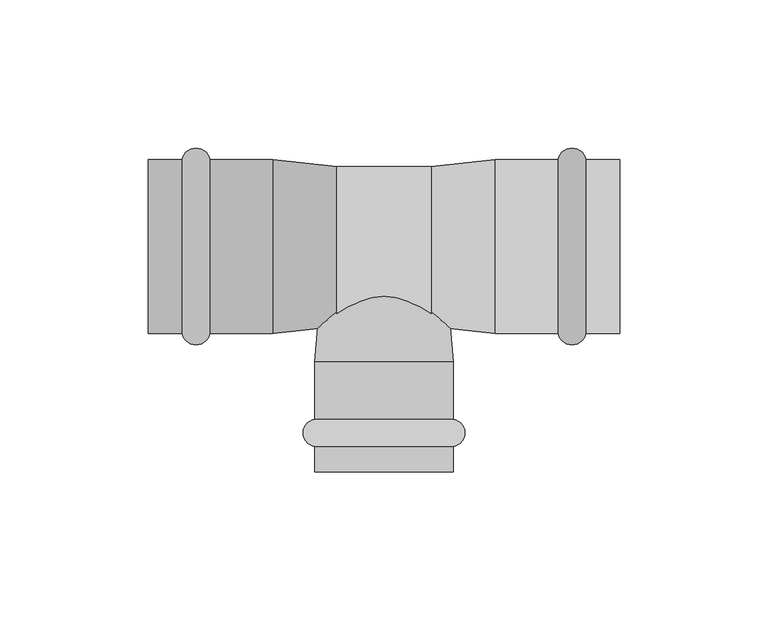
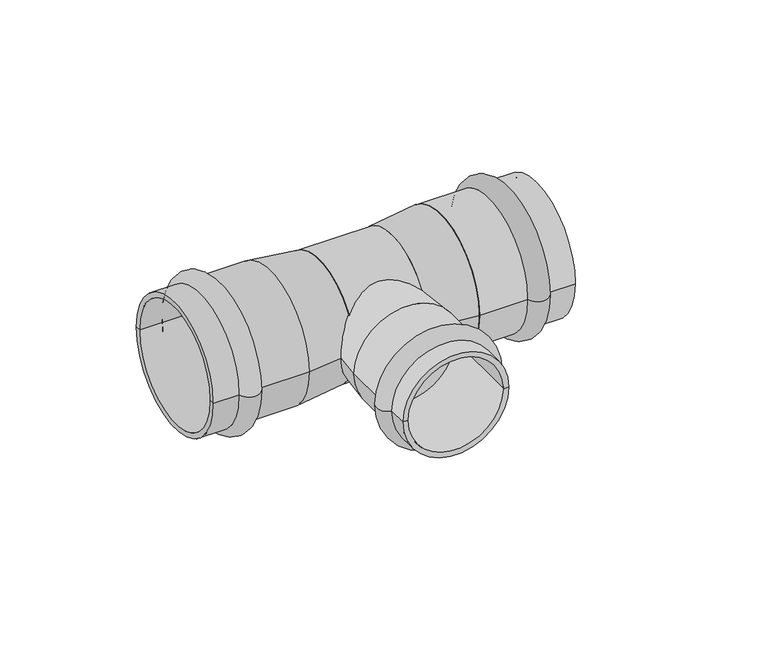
"""IFC4 building model written with IfcOpenShell, lengths in millimetres: pipe fitting geometry, VALTEC_VTi.931.I_Тройник_Ннержавеющая сталь : VTi.931.I."""

from ifc_helpers import new_model, si_unit, point, frame, origin, origin_2d, place, context, project, spatial, polyline, circle_curve, ellipse_curve, trimmed, segment, composite_curve, outline, extrude, source, transform, mapped, element, save
from ifc_brep_helpers import plane_surface, cylinder_surface, revolved_surface, advanced_brep


def pipe_fitting_036f088e(model_context):
    return source(origin(), model_context, "Body", "SolidModel", [
        advanced_brep(
        [(23.35, -67.4464272, 0.0), (-23.35, -67.4464272, 0.0), (-23.35, -58.3535728, 0.0), (23.35, -58.3535728, 0.0), (23.35, -76.0, 0.0), (-23.35, -76.0, 0.0), (21.0, -76.0, 0.0), (-21.0, -76.0, 0.0), (21.0, -39.0, 0.0), (-21.0, -39.0, 0.0), (23.35, -39.0, 0.0), (-23.35, -39.0, 0.0)],
        [
            (0, 1, circle_curve(frame((0.0, -67.4464272, 0.0), z_axis=(0.0, 1.0, 0.0), x_axis=(-1.0, 0.0, 0.0)), 23.35)),
            (1, 2, circle_curve(frame((-22.65, -62.9, 0.0), z_axis=(0.0, 0.0, -1.0), x_axis=(0.0, 1.0, 0.0)), 4.6)),
            (2, 3, circle_curve(frame((0.0, -58.3535728, 0.0), z_axis=(0.0, -1.0, 0.0), x_axis=(-1.0, 0.0, 0.0)), 23.35)),
            (3, 0, circle_curve(frame((22.65, -62.9, 0.0), z_axis=(0.0, 0.0, -1.0), x_axis=(0.0, 1.0, 0.0)), 4.6)),
            (1, 0, circle_curve(frame((0.0, -67.4464272, 0.0), z_axis=(0.0, 1.0, 0.0), x_axis=(-1.0, 0.0, 0.0)), 23.35)),
            (3, 2, circle_curve(frame((0.0, -58.3535728, 0.0), z_axis=(0.0, -1.0, 0.0), x_axis=(-1.0, 0.0, 0.0)), 23.35)),
            (4, 5, circle_curve(frame((0.0, -76.0, 0.0), z_axis=(0.0, 1.0, 0.0), x_axis=(-1.0, 0.0, 0.0)), 23.35)),
            (5, 1),
            (0, 4),
            (5, 4, circle_curve(frame((0.0, -76.0, 0.0), z_axis=(0.0, 1.0, 0.0), x_axis=(-1.0, 0.0, 0.0)), 23.35)),
            (6, 7, circle_curve(frame((0.0, -76.0, 0.0), z_axis=(0.0, 1.0, 0.0), x_axis=(-1.0, 0.0, 0.0)), 21.0)),
            (7, 5),
            (4, 6),
            (7, 6, circle_curve(frame((0.0, -76.0, 0.0), z_axis=(0.0, 1.0, 0.0), x_axis=(-1.0, 0.0, 0.0)), 21.0)),
            (8, 9, circle_curve(frame((0.0, -39.0, 0.0), z_axis=(0.0, 1.0, 0.0), x_axis=(-1.0, 0.0, 0.0)), 21.0)),
            (9, 7),
            (6, 8),
            (9, 8, circle_curve(frame((0.0, -39.0, 0.0), z_axis=(0.0, 1.0, 0.0), x_axis=(-1.0, 0.0, 0.0)), 21.0)),
            (10, 11, circle_curve(frame((0.0, -39.0, 0.0), z_axis=(0.0, 1.0, 0.0), x_axis=(-1.0, 0.0, 0.0)), 23.35)),
            (11, 9),
            (8, 10),
            (11, 10, circle_curve(frame((0.0, -39.0, 0.0), z_axis=(0.0, 1.0, 0.0), x_axis=(-1.0, 0.0, 0.0)), 23.35)),
            (2, 11),
            (10, 3),
        ],
        [
            revolved_surface(trimmed(ellipse_curve(frame((-22.65, -62.9, 0.0), z_axis=(0.0, 0.0, 1.0), x_axis=(0.0, 1.0, 0.0)), 4.6, 4.6), [point((-23.35, -58.3535728, 0.0))], [point((-23.35, -67.4464272, 0.0))], True, "CARTESIAN"), (0.0, -79.5364426, 0.0), (0.0, -1.0, 0.0)),
            cylinder_surface(frame((0.0, -79.5364426, 0.0), z_axis=(0.0, -1.0, 0.0), x_axis=(-1.0, 0.0, 0.0)), 23.35),
            plane_surface(frame((0.0, -76.0, 0.0), z_axis=(0.0, -1.0, 0.0), x_axis=(-1.0, 0.0, 0.0))),
            revolved_surface(polyline([(-21.0, -76.0, 0.0), (-21.0, -39.0, 0.0)]), (0.0, -79.5364426, 0.0), (0.0, -1.0, 0.0)),
            plane_surface(frame((0.0, -39.0, 0.0), z_axis=(0.0, 1.0, 0.0), x_axis=(-1.0, 0.0, 0.0))),
        ],
        [
            (0, [[1, 2, 3, 4]]),
            (0, [[5, -4, 6, -2]]),
            (1, [[7, 8, -1, 9]]),
            (1, [[10, -9, -5, -8]]),
            (2, [[11, 12, -7, 13]]),
            (2, [[14, -13, -10, -12]]),
            (3, [[15, 16, -11, 17]]),
            (3, [[18, -17, -14, -16]]),
            (4, [[19, 20, -15, 21]]),
            (4, [[22, -21, -18, -20]]),
            (1, [[-3, 23, -19, 24]]),
            (1, [[-6, -24, -22, -23]]),
        ],
    ),
        advanced_brep(
        [(68.1148701, 29.3, 0.0), (68.1148701, -29.3, 0.0), (58.6851299, -29.3, 0.0), (58.6851299, 29.3, 0.0), (79.5, 29.3, 0.0), (79.5, -29.3, 0.0), (79.5, 27.0, 0.0), (79.5, -27.0, 0.0), (37.5, 27.0, 0.0), (37.5, -27.0, 0.0), (37.5, 29.3, 0.0), (37.5, -29.3, 0.0)],
        [
            (0, 1, circle_curve(frame((68.1148701, 0.0, 0.0), z_axis=(-1.0, 0.0, 0.0), x_axis=(0.0, -1.0, 0.0)), 29.3)),
            (1, 2, circle_curve(frame((63.4, -28.4, 0.0), z_axis=(0.0, 0.0, -1.0), x_axis=(-1.0, 0.0, 0.0)), 4.8)),
            (2, 3, circle_curve(frame((58.6851299, 0.0, 0.0), z_axis=(1.0, 0.0, 0.0), x_axis=(0.0, -1.0, 0.0)), 29.3)),
            (3, 0, circle_curve(frame((63.4, 28.4, 0.0), z_axis=(0.0, 0.0, -1.0), x_axis=(-1.0, 0.0, 0.0)), 4.8)),
            (1, 0, circle_curve(frame((68.1148701, 0.0, 0.0), z_axis=(-1.0, 0.0, 0.0), x_axis=(0.0, -1.0, 0.0)), 29.3)),
            (3, 2, circle_curve(frame((58.6851299, 0.0, 0.0), z_axis=(1.0, 0.0, 0.0), x_axis=(0.0, -1.0, 0.0)), 29.3)),
            (4, 5, circle_curve(frame((79.5, 0.0, 0.0), z_axis=(-1.0, 0.0, 0.0), x_axis=(0.0, -1.0, 0.0)), 29.3)),
            (5, 1),
            (0, 4),
            (5, 4, circle_curve(frame((79.5, 0.0, 0.0), z_axis=(-1.0, 0.0, 0.0), x_axis=(0.0, -1.0, 0.0)), 29.3)),
            (6, 7, circle_curve(frame((79.5, 0.0, 0.0), z_axis=(-1.0, 0.0, 0.0), x_axis=(0.0, -1.0, 0.0)), 27.0)),
            (7, 5),
            (4, 6),
            (7, 6, circle_curve(frame((79.5, 0.0, 0.0), z_axis=(-1.0, 0.0, 0.0), x_axis=(0.0, -1.0, 0.0)), 27.0)),
            (8, 9, circle_curve(frame((37.5, 0.0, 0.0), z_axis=(-1.0, 0.0, 0.0), x_axis=(0.0, -1.0, 0.0)), 27.0)),
            (9, 7),
            (6, 8),
            (9, 8, circle_curve(frame((37.5, 0.0, 0.0), z_axis=(-1.0, 0.0, 0.0), x_axis=(0.0, -1.0, 0.0)), 27.0)),
            (10, 11, circle_curve(frame((37.5, 0.0, 0.0), z_axis=(-1.0, 0.0, 0.0), x_axis=(0.0, -1.0, 0.0)), 29.3)),
            (11, 9),
            (8, 10),
            (11, 10, circle_curve(frame((37.5, 0.0, 0.0), z_axis=(-1.0, 0.0, 0.0), x_axis=(0.0, -1.0, 0.0)), 29.3)),
            (2, 11),
            (10, 3),
        ],
        [
            revolved_surface(trimmed(ellipse_curve(frame((63.4, -28.4, 0.0), z_axis=(0.0, 0.0, 1.0), x_axis=(-1.0, 0.0, 0.0)), 4.8, 4.8), [point((58.6851299, -29.3, 0.0))], [point((68.1148701, -29.3, 0.0))], True, "CARTESIAN"), (83.0364426, 0.0, 0.0), (1.0, 0.0, 0.0)),
            cylinder_surface(frame((83.0364426, 0.0, 0.0), z_axis=(1.0, 0.0, 0.0), x_axis=(0.0, -1.0, 0.0)), 29.3),
            plane_surface(frame((79.5, 0.0, 0.0), z_axis=(1.0, 0.0, 0.0), x_axis=(0.0, -1.0, 0.0))),
            revolved_surface(polyline([(79.5, -27.0, 0.0), (37.5, -27.0, 0.0)]), (83.0364426, 0.0, 0.0), (1.0, 0.0, 0.0)),
            plane_surface(frame((37.5, 0.0, 0.0), z_axis=(-1.0, 0.0, 0.0), x_axis=(0.0, -1.0, 0.0))),
        ],
        [
            (0, [[1, 2, 3, 4]]),
            (0, [[5, -4, 6, -2]]),
            (1, [[7, 8, -1, 9]]),
            (1, [[10, -9, -5, -8]]),
            (2, [[11, 12, -7, 13]]),
            (2, [[14, -13, -10, -12]]),
            (3, [[15, 16, -11, 17]]),
            (3, [[18, -17, -14, -16]]),
            (4, [[19, 20, -15, 21]]),
            (4, [[22, -21, -18, -20]]),
            (1, [[-3, 23, -19, 24]]),
            (1, [[-6, -24, -22, -23]]),
        ],
    ),
        advanced_brep(
        [(-68.1148701, -29.3, 0.0), (-68.1148701, 29.3, 0.0), (-58.6851299, 29.3, 0.0), (-58.6851299, -29.3, 0.0), (-79.5, -29.3, 0.0), (-79.5, 29.3, 0.0), (-79.5, -27.0, 0.0), (-79.5, 27.0, 0.0), (-37.5, -27.0, 0.0), (-37.5, 27.0, 0.0), (-37.5, -29.3, 0.0), (-37.5, 29.3, 0.0)],
        [
            (0, 1, circle_curve(frame((-68.1148701, 0.0, 0.0), z_axis=(1.0, 0.0, 0.0), x_axis=(0.0, 1.0, 0.0)), 29.3)),
            (1, 2, circle_curve(frame((-63.4, 28.4, 0.0), z_axis=(0.0, 0.0, -1.0), x_axis=(1.0, 0.0, 0.0)), 4.8)),
            (2, 3, circle_curve(frame((-58.6851299, 0.0, 0.0), z_axis=(-1.0, 0.0, 0.0), x_axis=(0.0, 1.0, 0.0)), 29.3)),
            (3, 0, circle_curve(frame((-63.4, -28.4, 0.0), z_axis=(0.0, 0.0, -1.0), x_axis=(1.0, 0.0, 0.0)), 4.8)),
            (1, 0, circle_curve(frame((-68.1148701, 0.0, 0.0), z_axis=(1.0, 0.0, 0.0), x_axis=(0.0, 1.0, 0.0)), 29.3)),
            (3, 2, circle_curve(frame((-58.6851299, 0.0, 0.0), z_axis=(-1.0, 0.0, 0.0), x_axis=(0.0, 1.0, 0.0)), 29.3)),
            (4, 5, circle_curve(frame((-79.5, 0.0, 0.0), z_axis=(1.0, 0.0, 0.0), x_axis=(0.0, 1.0, 0.0)), 29.3)),
            (5, 1),
            (0, 4),
            (5, 4, circle_curve(frame((-79.5, 0.0, 0.0), z_axis=(1.0, 0.0, 0.0), x_axis=(0.0, 1.0, 0.0)), 29.3)),
            (6, 7, circle_curve(frame((-79.5, 0.0, 0.0), z_axis=(1.0, 0.0, 0.0), x_axis=(0.0, 1.0, 0.0)), 27.0)),
            (7, 5),
            (4, 6),
            (7, 6, circle_curve(frame((-79.5, 0.0, 0.0), z_axis=(1.0, 0.0, 0.0), x_axis=(0.0, 1.0, 0.0)), 27.0)),
            (8, 9, circle_curve(frame((-37.5, 0.0, 0.0), z_axis=(1.0, 0.0, 0.0), x_axis=(0.0, 1.0, 0.0)), 27.0)),
            (9, 7),
            (6, 8),
            (9, 8, circle_curve(frame((-37.5, 0.0, 0.0), z_axis=(1.0, 0.0, 0.0), x_axis=(0.0, 1.0, 0.0)), 27.0)),
            (10, 11, circle_curve(frame((-37.5, 0.0, 0.0), z_axis=(1.0, 0.0, 0.0), x_axis=(0.0, 1.0, 0.0)), 29.3)),
            (11, 9),
            (8, 10),
            (11, 10, circle_curve(frame((-37.5, 0.0, 0.0), z_axis=(1.0, 0.0, 0.0), x_axis=(0.0, 1.0, 0.0)), 29.3)),
            (2, 11),
            (10, 3),
        ],
        [
            revolved_surface(trimmed(ellipse_curve(frame((-63.4, 28.4, 0.0), z_axis=(0.0, 0.0, 1.0), x_axis=(1.0, 0.0, 0.0)), 4.8, 4.8), [point((-58.6851299, 29.3, 0.0))], [point((-68.1148701, 29.3, 0.0))], True, "CARTESIAN"), (-83.0364426, 0.0, 0.0), (-1.0, 0.0, 0.0)),
            cylinder_surface(frame((-83.0364426, 0.0, 0.0), z_axis=(-1.0, 0.0, 0.0), x_axis=(0.0, 1.0, 0.0)), 29.3),
            plane_surface(frame((-79.5, 0.0, 0.0), z_axis=(-1.0, 0.0, 0.0), x_axis=(0.0, 1.0, 0.0))),
            revolved_surface(polyline([(-79.5, 27.0, 0.0), (-37.5, 27.0, 0.0)]), (-83.0364426, 0.0, 0.0), (-1.0, 0.0, 0.0)),
            plane_surface(frame((-37.5, 0.0, 0.0), z_axis=(1.0, 0.0, 0.0), x_axis=(0.0, 1.0, 0.0))),
        ],
        [
            (0, [[1, 2, 3, 4]]),
            (0, [[5, -4, 6, -2]]),
            (1, [[7, 8, -1, 9]]),
            (1, [[10, -9, -5, -8]]),
            (2, [[11, 12, -7, 13]]),
            (2, [[14, -13, -10, -12]]),
            (3, [[15, 16, -11, 17]]),
            (3, [[18, -17, -14, -16]]),
            (4, [[19, 20, -15, 21]]),
            (4, [[22, -21, -18, -20]]),
            (1, [[-3, 23, -19, 24]]),
            (1, [[-6, -24, -22, -23]]),
        ],
    ),
        extrude(outline(composite_curve([segment(trimmed(circle_curve(origin_2d(), 27.0), [point((-27.0, 0.0))], [point((27.0, 0.0))], False, "CARTESIAN"), True, "CONTINUOUS"), segment(trimmed(circle_curve(origin_2d(), 27.0), [point((27.0, 0.0))], [point((-27.0, 0.0))], False, "CARTESIAN"), True, "CONTINUOUS")], self_intersect=False)), frame((-16.0, 0.0, 0.0), z_axis=(1.0, 0.0, 0.0), x_axis=(0.0, 1.0, 0.0)), (0.0, 0.0, 1.0), 32.0),
        advanced_brep(
        [(-23.35, -39.0, 0.0), (23.35, -39.0, 0.0), (-21.0, -11.3209826, 0.0), (21.0, -11.3209826, 0.0)],
        [
            (0, 1, circle_curve(frame((0.0, -39.0, 0.0), z_axis=(0.0, -1.0, 0.0), x_axis=(-1.0, 0.0, 0.0)), 23.35)),
            (1, 0, circle_curve(frame((0.0, -39.0, 0.0), z_axis=(0.0, -1.0, 0.0), x_axis=(1.0, 0.0, 0.0)), 23.35)),
            (2, 3, circle_curve(frame((0.0, -11.3209826, 0.0), z_axis=(0.0, 1.0, 0.0), x_axis=(1.0, 0.0, 0.0)), 21.0)),
            (3, 2, circle_curve(frame((0.0, -11.3209826, 0.0), z_axis=(0.0, 1.0, 0.0), x_axis=(-1.0, 0.0, 0.0)), 21.0)),
            (3, 1),
            (0, 2),
        ],
        [
            plane_surface(frame((0.0, -39.0, 0.0), z_axis=(0.0, -1.0, 0.0), x_axis=(0.0, 0.0, 1.0))),
            plane_surface(frame((0.0, -11.3209826, 0.0), z_axis=(0.0, 1.0, 0.0), x_axis=(0.0, 0.0, 1.0))),
            revolved_surface(polyline([(21.000000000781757, -11.320982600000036, 0.0), (23.35, -38.99999999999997, 0.0)]), (0.0, 236.0234283, 0.0), (0.0, -1.0, 0.0)),
            revolved_surface(polyline([(-21.000000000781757, -11.320982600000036, 0.0), (-23.35, -38.99999999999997, 0.0)]), (0.0, 236.0234283, 0.0), (0.0, -1.0, 0.0)),
        ],
        [
            (0, [[1, 2]]),
            (1, [[3, 4]]),
            (2, [[-4, 5, -1, 6]]),
            (3, [[-3, -6, -2, -5]]),
        ],
    ),
        extrude(outline(composite_curve([segment(trimmed(circle_curve(origin_2d(), 21.0), [point((0.0, -21.0))], [point((0.0, 21.0))], False, "CARTESIAN"), True, "CONTINUOUS"), segment(trimmed(circle_curve(origin_2d(), 21.0), [point((0.0, 21.0))], [point((0.0, -21.0))], False, "CARTESIAN"), True, "CONTINUOUS")], self_intersect=False)), frame((0.0, -11.3209826, 0.0), z_axis=(0.0, 1.0, 0.0), x_axis=(0.0, 0.0, 1.0)), (0.0, 0.0, 1.0), 11.3209826),
        advanced_brep(
        [(37.5, -29.3, 0.0), (37.5, 29.3, 0.0), (16.0, -27.0, 0.0), (16.0, 27.0, 0.0)],
        [
            (0, 1, circle_curve(frame((37.5, 0.0, 0.0), z_axis=(1.0, 0.0, 0.0), x_axis=(0.0, -1.0, 0.0)), 29.3)),
            (1, 0, circle_curve(frame((37.5, 0.0, 0.0), z_axis=(1.0, 0.0, 0.0), x_axis=(0.0, 1.0, 0.0)), 29.3)),
            (2, 3, circle_curve(frame((16.0, 0.0, 0.0), z_axis=(-1.0, 0.0, 0.0), x_axis=(0.0, 1.0, 0.0)), 27.0)),
            (3, 2, circle_curve(frame((16.0, 0.0, 0.0), z_axis=(-1.0, 0.0, 0.0), x_axis=(0.0, -1.0, 0.0)), 27.0)),
            (3, 1),
            (0, 2),
        ],
        [
            plane_surface(frame((37.5, 0.0, 0.0), z_axis=(1.0, 0.0, 0.0), x_axis=(0.0, 0.0, 1.0))),
            plane_surface(frame((16.0, 0.0, 0.0), z_axis=(-1.0, 0.0, 0.0), x_axis=(0.0, 0.0, 1.0))),
            revolved_surface(polyline([(16.0, 26.999999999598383, 0.0), (37.5, 29.3, 0.0)]), (-236.3913043, 0.0, 0.0), (1.0, 0.0, 0.0)),
            revolved_surface(polyline([(16.0, -26.999999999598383, 0.0), (37.5, -29.3, 0.0)]), (-236.3913043, 0.0, 0.0), (1.0, 0.0, 0.0)),
        ],
        [
            (0, [[1, 2]]),
            (1, [[3, 4]]),
            (2, [[-4, 5, -1, 6]]),
            (3, [[-3, -6, -2, -5]]),
        ],
    ),
        advanced_brep(
        [(-37.5, -29.3, 0.0), (-37.5, 29.3, 0.0), (-16.0, -27.0, 0.0), (-16.0, 27.0, 0.0)],
        [
            (0, 1, circle_curve(frame((-37.5, 0.0, 0.0), z_axis=(-1.0, 0.0, 0.0), x_axis=(0.0, -1.0, 0.0)), 29.3)),
            (1, 0, circle_curve(frame((-37.5, 0.0, 0.0), z_axis=(-1.0, 0.0, 0.0), x_axis=(0.0, 1.0, 0.0)), 29.3)),
            (2, 3, circle_curve(frame((-16.0, 0.0, 0.0), z_axis=(1.0, 0.0, 0.0), x_axis=(0.0, 1.0, 0.0)), 27.0)),
            (3, 2, circle_curve(frame((-16.0, 0.0, 0.0), z_axis=(1.0, 0.0, 0.0), x_axis=(0.0, -1.0, 0.0)), 27.0)),
            (2, 0),
            (1, 3),
        ],
        [
            plane_surface(frame((-37.5, 0.0, 0.0), z_axis=(-1.0, 0.0, 0.0), x_axis=(0.0, 0.0, -1.0))),
            plane_surface(frame((-16.0, 0.0, 0.0), z_axis=(1.0, 0.0, 0.0), x_axis=(0.0, 0.0, -1.0))),
            revolved_surface(polyline([(-16.0, -26.999999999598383, 0.0), (-37.5, -29.3, 0.0)]), (236.3913043, 0.0, 0.0), (-1.0, 0.0, 0.0)),
            revolved_surface(polyline([(-16.0, 26.999999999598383, 0.0), (-37.5, 29.3, 0.0)]), (236.3913043, 0.0, 0.0), (-1.0, 0.0, 0.0)),
        ],
        [
            (0, [[1, 2]]),
            (1, [[3, 4]]),
            (2, [[-3, 5, -2, 6]]),
            (3, [[-4, -6, -1, -5]]),
        ],
    ),
    ])


if __name__ == "__main__":
    model = new_model("IFC4")
    model_context = context("Model", 3, world=origin())
    ifc_project = project(units=[si_unit("LENGTHUNIT", "METRE", prefix="MILLI")], contexts=[model_context])
    site = spatial("IfcSite", under=ifc_project)
    building = spatial("IfcBuilding", under=site)
    placement = place(None, origin())
    pipe_fitting_shape = pipe_fitting_036f088e(model_context)
    element("IfcPipeFitting", 1, ObjectType="VALTEC_VTi.931.I_Тройник_Ннержавеющая сталь : VTi.931.I", at=placement, inside=building, context=model_context, shape_type="MappedRepresentation", body=[
        mapped(pipe_fitting_shape, transform((0.0, 0.0, 0.0), x_axis=(1.0, 0.0, 0.0), y_axis=(0.0, 1.0, 0.0), z_axis=(0.0, 0.0, 1.0))),
    ])
    save(model, "model.ifc")
